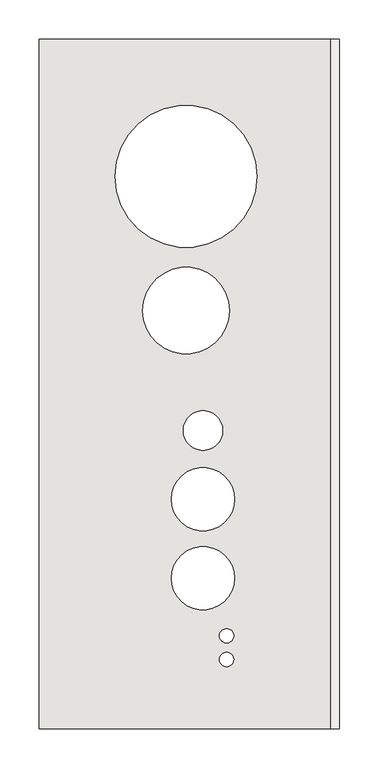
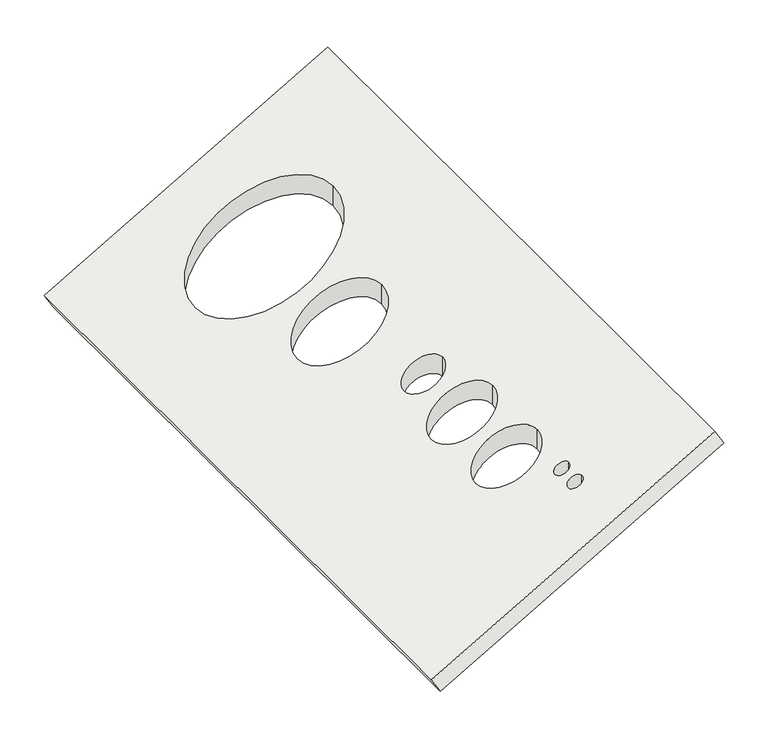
"""IFC4 building model written with IfcOpenShell, lengths in millimetres: covering geometry, MG_BPC_Delta Discovery Air_roofboard-PA_M&G : roofboard DDA."""

from ifc_helpers import new_model, si_unit, frame, origin, place, context, project, spatial, polyline, ellipse_curve, source, transform, mapped, element, save
from ifc_brep_helpers import plane_surface, revolved_surface, advanced_brep


def covering_ebfa055f(model_context):
    return source(origin(), model_context, "Body", "AdvancedBrep", [
        advanced_brep(
        [(-172.963411, -436.5, -126.4185843), (-172.963411, 436.5, -126.4185843), (195.963411, 436.5, 86.5814157), (195.963411, -436.5, 86.5814157), (44.0377852, -349.0, -1.1328853), (62.0377852, -349.0, 9.2594196), (44.0377852, -319.0, -1.1328853), (62.0377852, -319.0, 9.2594196), (-16.9622148, -146.0, -36.3512517), (63.0377852, -146.0, 9.8367699), (-1.9622148, -59.0, -27.6909976), (48.0377852, -59.0, 1.1765158), (-16.9622148, -246.0, -36.3512517), (63.0377852, -246.0, 9.8367699), (-53.4622148, 93.0, -57.4245365), (56.5377852, 93.0, 6.0839931), (-88.4622148, 263.0, -77.6317959), (91.5377852, 263.0, 26.2912525), (-184.463411, -436.5, -106.5), (184.463411, -436.5, 106.5), (184.463411, 436.5, 106.5), (-184.463411, 436.5, -106.5), (62.0377852, -349.0, 35.817532), (44.0377852, -349.0, 25.4252271), (62.0377852, -319.0, 35.817532), (44.0377852, -319.0, 25.4252271), (63.0377852, -146.0, 36.3948822), (-16.9622148, -146.0, -9.7931393), (48.0377852, -59.0, 27.7346282), (-1.9622148, -59.0, -1.1328853), (63.0377852, -246.0, 36.3948822), (-16.9622148, -246.0, -9.7931393), (56.5377852, 93.0, 32.6421055), (-53.4622148, 93.0, -30.8664241), (91.5377852, 263.0, 52.8493649), (-88.4622148, 263.0, -51.0736835)],
        [
            (0, 1),
            (1, 2),
            (2, 3),
            (3, 0),
            (4, 5, ellipse_curve(frame((53.0377852, -349.0, 4.0632672), z_axis=(-0.4999999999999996, 0.0, 0.8660254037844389), x_axis=(0.866025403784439, 0.0, 0.49999999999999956)), 10.3923048, 9.0)),
            (5, 4, ellipse_curve(frame((53.0377852, -349.0, 4.0632672), z_axis=(-0.4999999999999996, 0.0, 0.8660254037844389), x_axis=(0.866025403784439, 0.0, 0.49999999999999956)), 10.3923048, 9.0)),
            (6, 7, ellipse_curve(frame((53.0377852, -319.0, 4.0632672), z_axis=(-0.4999999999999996, 0.0, 0.8660254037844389), x_axis=(0.866025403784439, 0.0, 0.49999999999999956)), 10.3923048, 9.0)),
            (7, 6, ellipse_curve(frame((53.0377852, -319.0, 4.0632672), z_axis=(-0.4999999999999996, 0.0, 0.8660254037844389), x_axis=(0.866025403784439, 0.0, 0.49999999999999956)), 10.3923048, 9.0)),
            (8, 9, ellipse_curve(frame((23.0377852, -146.0, -13.2572409), z_axis=(-0.4999999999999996, 0.0, 0.8660254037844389), x_axis=(0.866025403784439, 0.0, 0.49999999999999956)), 46.1880215, 40.0)),
            (9, 8, ellipse_curve(frame((23.0377852, -146.0, -13.2572409), z_axis=(-0.4999999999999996, 0.0, 0.8660254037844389), x_axis=(0.866025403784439, 0.0, 0.49999999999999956)), 46.1880215, 40.0)),
            (10, 11, ellipse_curve(frame((23.0377852, -59.0, -13.2572409), z_axis=(-0.4999999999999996, 0.0, 0.8660254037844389), x_axis=(0.866025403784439, 0.0, 0.49999999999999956)), 28.8675135, 25.0)),
            (11, 10, ellipse_curve(frame((23.0377852, -59.0, -13.2572409), z_axis=(-0.4999999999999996, 0.0, 0.8660254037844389), x_axis=(0.866025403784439, 0.0, 0.49999999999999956)), 28.8675135, 25.0)),
            (12, 13, ellipse_curve(frame((23.0377852, -246.0, -13.2572409), z_axis=(-0.4999999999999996, 0.0, 0.8660254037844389), x_axis=(0.866025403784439, 0.0, 0.49999999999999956)), 46.1880215, 40.0)),
            (13, 12, ellipse_curve(frame((23.0377852, -246.0, -13.2572409), z_axis=(-0.4999999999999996, 0.0, 0.8660254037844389), x_axis=(0.866025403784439, 0.0, 0.49999999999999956)), 46.1880215, 40.0)),
            (14, 15, ellipse_curve(frame((1.5377852, 93.0, -25.6702717), z_axis=(-0.4999999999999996, 0.0, 0.8660254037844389), x_axis=(0.866025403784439, 0.0, 0.49999999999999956)), 63.5085296, 55.0)),
            (15, 14, ellipse_curve(frame((1.5377852, 93.0, -25.6702717), z_axis=(-0.4999999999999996, 0.0, 0.8660254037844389), x_axis=(0.866025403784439, 0.0, 0.49999999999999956)), 63.5085296, 55.0)),
            (16, 17, ellipse_curve(frame((1.5377852, 263.0, -25.6702717), z_axis=(-0.4999999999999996, 0.0, 0.8660254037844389), x_axis=(0.866025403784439, 0.0, 0.49999999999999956)), 103.9230485, 90.0)),
            (17, 16, ellipse_curve(frame((1.5377852, 263.0, -25.6702717), z_axis=(-0.4999999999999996, 0.0, 0.8660254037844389), x_axis=(0.866025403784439, 0.0, 0.49999999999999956)), 103.9230485, 90.0)),
            (18, 19),
            (19, 20),
            (20, 21),
            (21, 18),
            (22, 23, ellipse_curve(frame((53.0377852, -349.0, 30.6213795), z_axis=(0.4999999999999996, 0.0, -0.8660254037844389), x_axis=(0.866025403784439, 0.0, 0.49999999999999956)), 10.3923048, 9.0)),
            (23, 22, ellipse_curve(frame((53.0377852, -349.0, 30.6213795), z_axis=(0.4999999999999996, 0.0, -0.8660254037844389), x_axis=(0.866025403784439, 0.0, 0.49999999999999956)), 10.3923048, 9.0)),
            (24, 25, ellipse_curve(frame((53.0377852, -319.0, 30.6213795), z_axis=(0.4999999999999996, 0.0, -0.8660254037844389), x_axis=(0.866025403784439, 0.0, 0.49999999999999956)), 10.3923048, 9.0)),
            (25, 24, ellipse_curve(frame((53.0377852, -319.0, 30.6213795), z_axis=(0.4999999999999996, 0.0, -0.8660254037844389), x_axis=(0.866025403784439, 0.0, 0.49999999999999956)), 10.3923048, 9.0)),
            (26, 27, ellipse_curve(frame((23.0377852, -146.0, 13.3008715), z_axis=(0.4999999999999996, 0.0, -0.8660254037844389), x_axis=(0.866025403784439, 0.0, 0.49999999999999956)), 46.1880215, 40.0)),
            (27, 26, ellipse_curve(frame((23.0377852, -146.0, 13.3008715), z_axis=(0.4999999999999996, 0.0, -0.8660254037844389), x_axis=(0.866025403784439, 0.0, 0.49999999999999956)), 46.1880215, 40.0)),
            (28, 29, ellipse_curve(frame((23.0377852, -59.0, 13.3008715), z_axis=(0.4999999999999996, 0.0, -0.8660254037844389), x_axis=(0.866025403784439, 0.0, 0.49999999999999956)), 28.8675135, 25.0)),
            (29, 28, ellipse_curve(frame((23.0377852, -59.0, 13.3008715), z_axis=(0.4999999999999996, 0.0, -0.8660254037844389), x_axis=(0.866025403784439, 0.0, 0.49999999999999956)), 28.8675135, 25.0)),
            (30, 31, ellipse_curve(frame((23.0377852, -246.0, 13.3008715), z_axis=(0.4999999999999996, 0.0, -0.8660254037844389), x_axis=(0.866025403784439, 0.0, 0.49999999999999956)), 46.1880215, 40.0)),
            (31, 30, ellipse_curve(frame((23.0377852, -246.0, 13.3008715), z_axis=(0.4999999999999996, 0.0, -0.8660254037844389), x_axis=(0.866025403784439, 0.0, 0.49999999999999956)), 46.1880215, 40.0)),
            (32, 33, ellipse_curve(frame((1.5377852, 93.0, 0.8878407), z_axis=(0.4999999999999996, 0.0, -0.8660254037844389), x_axis=(0.866025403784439, 0.0, 0.49999999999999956)), 63.5085296, 55.0)),
            (33, 32, ellipse_curve(frame((1.5377852, 93.0, 0.8878407), z_axis=(0.4999999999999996, 0.0, -0.8660254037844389), x_axis=(0.866025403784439, 0.0, 0.49999999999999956)), 63.5085296, 55.0)),
            (34, 35, ellipse_curve(frame((1.5377852, 263.0, 0.8878407), z_axis=(0.4999999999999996, 0.0, -0.8660254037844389), x_axis=(0.866025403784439, 0.0, 0.49999999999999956)), 103.9230485, 90.0)),
            (35, 34, ellipse_curve(frame((1.5377852, 263.0, 0.8878407), z_axis=(0.4999999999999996, 0.0, -0.8660254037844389), x_axis=(0.866025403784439, 0.0, 0.49999999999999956)), 103.9230485, 90.0)),
            (3, 19),
            (18, 0),
            (2, 20),
            (1, 21),
            (4, 23),
            (22, 5),
            (6, 25),
            (24, 7),
            (8, 27),
            (26, 9),
            (10, 29),
            (28, 11),
            (12, 31),
            (30, 13),
            (14, 33),
            (32, 15),
            (16, 35),
            (34, 17),
        ],
        [
            plane_surface(frame((-172.963411, -436.5, -126.4185843), z_axis=(0.4999999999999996, 0.0, -0.8660254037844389), x_axis=(-0.8660254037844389, 0.0, -0.4999999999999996))),
            plane_surface(frame((-184.463411, -436.5, -106.5), z_axis=(-0.4999999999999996, 0.0, 0.8660254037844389), x_axis=(0.8660254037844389, 0.0, 0.4999999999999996))),
            plane_surface(frame((-184.463411, -436.5, -106.5), z_axis=(0.0, -1.0000000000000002, 0.0), x_axis=(0.5000000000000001, 0.0, -0.8660254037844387))),
            plane_surface(frame((184.463411, -436.5, 106.5), z_axis=(0.8660254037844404, 0.0, 0.4999999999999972), x_axis=(0.4999999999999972, 0.0, -0.8660254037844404))),
            plane_surface(frame((184.463411, 436.5, 106.5), z_axis=(0.0, 1.0000000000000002, 0.0), x_axis=(0.4999999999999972, 0.0, -0.8660254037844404))),
            plane_surface(frame((-184.463411, 436.5, -106.5), z_axis=(-0.8660254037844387, 0.0, -0.5000000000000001), x_axis=(0.5000000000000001, 0.0, -0.8660254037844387))),
            revolved_surface(polyline([(62.0377852, -349.0, 35.81753200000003), (62.0377852, -349.0, -1.132885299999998)]), (53.0377852, -349.0, -300.0), (0.0, 0.0, 1.0)),
            revolved_surface(polyline([(62.0377852, -319.0, 35.817532), (62.0377852, -319.0, -1.1328853)]), (53.0377852, -319.0, 0.0), (0.0, 0.0, 1.0)),
            revolved_surface(polyline([(63.0377852, -146.0, 36.39488224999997), (63.0377852, -146.0, -36.35125169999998)]), (23.0377852, -146.0, -300.0), (0.0, 0.0, 1.0)),
            revolved_surface(polyline([(48.0377852, -59.0, 27.734628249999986), (48.0377852, -59.0, -27.690997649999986)]), (23.0377852, -59.0, 0.0), (0.0, 0.0, 1.0)),
            revolved_surface(polyline([(63.0377852, -246.0, 36.39488224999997), (63.0377852, -246.0, -36.35125169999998)]), (23.0377852, -246.0, -300.0), (0.0, 0.0, 1.0)),
            revolved_surface(polyline([(56.5377852, 93.0, 32.642105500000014), (56.5377852, 93.0, -57.42453649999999)]), (1.5377852, 93.0, -300.0), (0.0, 0.0, 1.0)),
            revolved_surface(polyline([(91.5377852, 263.0, 52.84936494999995), (91.5377852, 263.0, -77.63179594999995)]), (1.5377852, 263.0, 0.0), (0.0, 0.0, 1.0)),
        ],
        [
            (0, [[1, 2, 3, 4], [5, 6], [7, 8], [9, 10], [11, 12], [13, 14], [15, 16], [17, 18]]),
            (1, [[19, 20, 21, 22], [23, 24], [25, 26], [27, 28], [29, 30], [31, 32], [33, 34], [35, 36]]),
            (2, [[-4, 37, -19, 38]]),
            (3, [[-3, 39, -20, -37]]),
            (4, [[-2, 40, -21, -39]]),
            (5, [[-1, -38, -22, -40]]),
            (6, [[41, -23, 42, -5]]),
            (6, [[-41, -6, -42, -24]]),
            (7, [[43, -25, 44, -7]]),
            (7, [[-43, -8, -44, -26]]),
            (8, [[45, -27, 46, -9]]),
            (8, [[-45, -10, -46, -28]]),
            (9, [[47, -29, 48, -11]]),
            (9, [[-47, -12, -48, -30]]),
            (10, [[49, -31, 50, -13]]),
            (10, [[-49, -14, -50, -32]]),
            (11, [[51, -33, 52, -15]]),
            (11, [[-51, -16, -52, -34]]),
            (12, [[53, -35, 54, -17]]),
            (12, [[-53, -18, -54, -36]]),
        ],
    ),
    ])


if __name__ == "__main__":
    model = new_model("IFC4")
    model_context = context("Model", 3, world=origin())
    ifc_project = project(units=[si_unit("LENGTHUNIT", "METRE", prefix="MILLI")], contexts=[model_context])
    site = spatial("IfcSite", under=ifc_project)
    building = spatial("IfcBuilding", under=site)
    placement = place(None, origin())
    covering_shape = covering_ebfa055f(model_context)
    element("IfcCovering", 1, ObjectType="MG_BPC_Delta Discovery Air_roofboard-PA_M&G : roofboard DDA", at=placement, inside=building, context=model_context, shape_type="MappedRepresentation", body=[
        mapped(covering_shape, transform((0.0, 0.0, 0.0), x_axis=(1.0, 0.0, 0.0), y_axis=(0.0, 1.0, 0.0), z_axis=(0.0, 0.0, 1.0))),
    ])
    save(model, "model.ifc")
